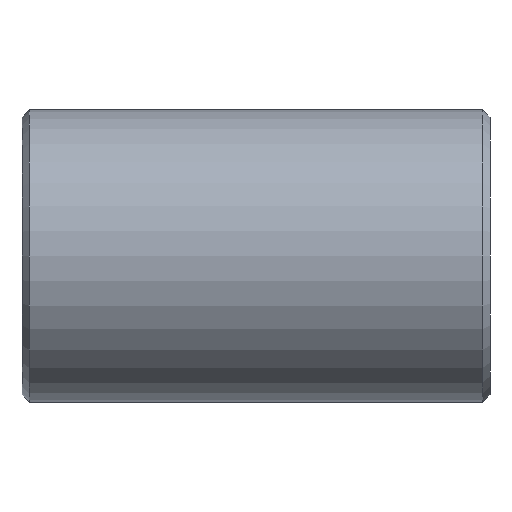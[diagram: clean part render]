
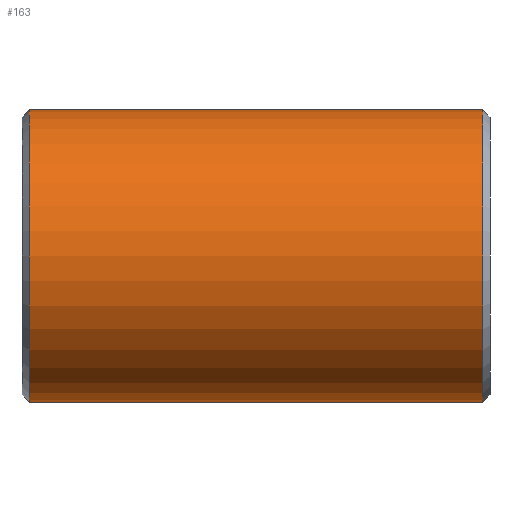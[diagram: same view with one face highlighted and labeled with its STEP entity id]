
A CAD part, front view. The second image highlights one B-rep face of the part: STEP entity #163.
In plain terms, the highlighted cylindrical face has radius 10 mm (diameter 20 mm), a partial arc.
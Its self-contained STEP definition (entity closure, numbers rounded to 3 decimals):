
#2 = VERTEX_POINT ( 'NONE', #230 ) ;
#8 = LINE ( 'NONE', #213, #334 ) ;
#23 = CARTESIAN_POINT ( 'NONE',  ( 31.5, 0., -10. ) ) ;
#29 = EDGE_CURVE ( 'NONE', #92, #114, #101, .T. ) ;
#43 = CIRCLE ( 'NONE', #320, 10. ) ;
#53 = EDGE_CURVE ( 'NONE', #164, #2, #8, .T. ) ;
#58 = DIRECTION ( 'NONE',  ( 0., 0., 1. ) ) ;
#92 = VERTEX_POINT ( 'NONE', #23 ) ;
#96 = CARTESIAN_POINT ( 'NONE',  ( 0., 0., 0. ) ) ;
#101 = LINE ( 'NONE', #257, #136 ) ;
#107 = DIRECTION ( 'NONE',  ( 1., 0., 0. ) ) ;
#114 = VERTEX_POINT ( 'NONE', #440 ) ;
#129 = DIRECTION ( 'NONE',  ( -1., 0., 0. ) ) ;
#133 = DIRECTION ( 'NONE',  ( 0., 0., 1. ) ) ;
#136 = VECTOR ( 'NONE', #129, 1000. ) ;
#163 = ADVANCED_FACE ( 'NONE', ( #196 ), #367, .T. ) ;
#164 = VERTEX_POINT ( 'NONE', #360 ) ;
#170 = CIRCLE ( 'NONE', #238, 10. ) ;
#185 = ORIENTED_EDGE ( 'NONE', *, *, #346, .T. ) ;
#190 = EDGE_CURVE ( 'NONE', #92, #164, #43, .T. ) ;
#196 = FACE_OUTER_BOUND ( 'NONE', #375, .T. ) ;
#213 = CARTESIAN_POINT ( 'NONE',  ( 0., 0., 10. ) ) ;
#230 = CARTESIAN_POINT ( 'NONE',  ( 0.5, 0., 10. ) ) ;
#238 = AXIS2_PLACEMENT_3D ( 'NONE', #342, #107, #419 ) ;
#257 = CARTESIAN_POINT ( 'NONE',  ( 0., 0., -10. ) ) ;
#312 = ORIENTED_EDGE ( 'NONE', *, *, #190, .T. ) ;
#320 = AXIS2_PLACEMENT_3D ( 'NONE', #358, #326, #58 ) ;
#326 = DIRECTION ( 'NONE',  ( -1., 0., 0. ) ) ;
#334 = VECTOR ( 'NONE', #400, 1000. ) ;
#342 = CARTESIAN_POINT ( 'NONE',  ( 0.5, 0., 0. ) ) ;
#346 = EDGE_CURVE ( 'NONE', #2, #114, #170, .T. ) ;
#358 = CARTESIAN_POINT ( 'NONE',  ( 31.5, 0., 0. ) ) ;
#360 = CARTESIAN_POINT ( 'NONE',  ( 31.5, 0., 10. ) ) ;
#362 = DIRECTION ( 'NONE',  ( -1., 0., 0. ) ) ;
#367 = CYLINDRICAL_SURFACE ( 'NONE', #417, 10. ) ;
#375 = EDGE_LOOP ( 'NONE', ( #420, #312, #381, #185 ) ) ;
#381 = ORIENTED_EDGE ( 'NONE', *, *, #53, .T. ) ;
#400 = DIRECTION ( 'NONE',  ( -1., 0., 0. ) ) ;
#417 = AXIS2_PLACEMENT_3D ( 'NONE', #96, #362, #133 ) ;
#419 = DIRECTION ( 'NONE',  ( 0., 0., -1. ) ) ;
#420 = ORIENTED_EDGE ( 'NONE', *, *, #29, .F. ) ;
#440 = CARTESIAN_POINT ( 'NONE',  ( 0.5, 0., -10. ) ) ;
